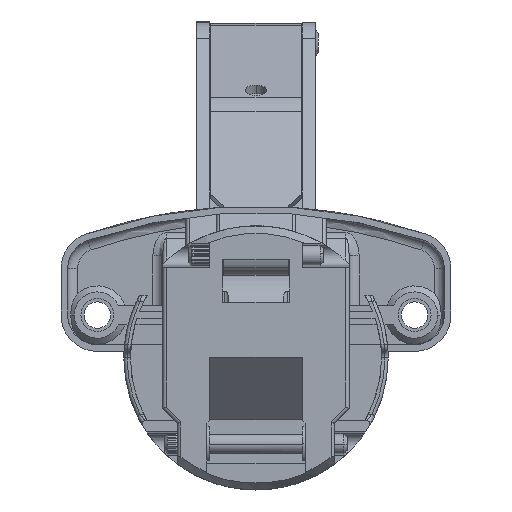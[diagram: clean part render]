
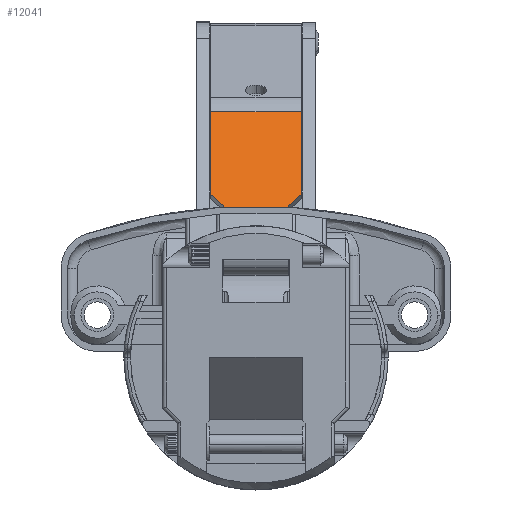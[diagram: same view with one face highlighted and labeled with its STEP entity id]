
A CAD part, top view. The second image highlights one B-rep face of the part: STEP entity #12041.
In plain terms, the highlighted planar face has unit normal (0, 0.467, 0.884) as drawn and (-0.417, 0.909, 0) by its records, which use the part's own axes.
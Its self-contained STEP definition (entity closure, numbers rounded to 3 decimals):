
#2488 = CARTESIAN_POINT ( 'NONE',  ( 8.4, -3.8, 13.7 ) ) ;
#2500 = PLANE ( 'NONE',  #4116 ) ;
#2503 = DIRECTION ( 'NONE',  ( 0.417, -0.909, 0. ) ) ;
#2505 = DIRECTION ( 'NONE',  ( 0.909, 0.417, 0. ) ) ;
#4116 = AXIS2_PLACEMENT_3D ( 'NONE', #2488, #2503, #2505 ) ;
#5132 = LINE ( 'NONE', #33053, #5141 ) ;
#5134 = LINE ( 'NONE', #32800, #5137 ) ;
#5136 = LINE ( 'NONE', #32790, #5139 ) ;
#5137 = VECTOR ( 'NONE', #32791, 1000. ) ;
#5138 = LINE ( 'NONE', #32914, #5145 ) ;
#5139 = VECTOR ( 'NONE', #32788, 1000. ) ;
#5140 = LINE ( 'NONE', #32786, #5143 ) ;
#5141 = VECTOR ( 'NONE', #32787, 1000. ) ;
#5142 = LINE ( 'NONE', #32789, #5147 ) ;
#5143 = VECTOR ( 'NONE', #32784, 1000. ) ;
#5145 = VECTOR ( 'NONE', #32783, 1000. ) ;
#5146 = LINE ( 'NONE', #32780, #5149 ) ;
#5147 = VECTOR ( 'NONE', #32781, 1000. ) ;
#5148 = LINE ( 'NONE', #32778, #5151 ) ;
#5149 = VECTOR ( 'NONE', #32779, 1000. ) ;
#5151 = VECTOR ( 'NONE', #32777, 1000. ) ;
#5702 = FACE_OUTER_BOUND ( 'NONE', #32856, .T. ) ;
#7741 = EDGE_CURVE ( 'NONE', #8924, #8927, #5134, .T. ) ;
#7742 = EDGE_CURVE ( 'NONE', #8924, #8933, #5136, .T. ) ;
#7743 = EDGE_CURVE ( 'NONE', #8933, #8934, #5132, .T. ) ;
#7744 = EDGE_CURVE ( 'NONE', #8928, #8934, #5140, .T. ) ;
#7745 = EDGE_CURVE ( 'NONE', #8930, #8928, #5138, .T. ) ;
#7746 = EDGE_CURVE ( 'NONE', #8930, #8937, #5142, .T. ) ;
#7747 = EDGE_CURVE ( 'NONE', #8937, #8938, #5146, .T. ) ;
#7748 = EDGE_CURVE ( 'NONE', #8938, #8927, #5148, .T. ) ;
#8924 = VERTEX_POINT ( 'NONE', #26335 ) ;
#8927 = VERTEX_POINT ( 'NONE', #26330 ) ;
#8928 = VERTEX_POINT ( 'NONE', #26325 ) ;
#8930 = VERTEX_POINT ( 'NONE', #26314 ) ;
#8933 = VERTEX_POINT ( 'NONE', #26316 ) ;
#8934 = VERTEX_POINT ( 'NONE', #26305 ) ;
#8937 = VERTEX_POINT ( 'NONE', #26310 ) ;
#8938 = VERTEX_POINT ( 'NONE', #26301 ) ;
#10351 = ORIENTED_EDGE ( 'NONE', *, *, #7741, .F. ) ;
#10352 = ORIENTED_EDGE ( 'NONE', *, *, #7742, .T. ) ;
#10353 = ORIENTED_EDGE ( 'NONE', *, *, #7743, .T. ) ;
#10354 = ORIENTED_EDGE ( 'NONE', *, *, #7744, .F. ) ;
#10355 = ORIENTED_EDGE ( 'NONE', *, *, #7745, .F. ) ;
#10356 = ORIENTED_EDGE ( 'NONE', *, *, #7746, .T. ) ;
#10357 = ORIENTED_EDGE ( 'NONE', *, *, #7747, .T. ) ;
#10358 = ORIENTED_EDGE ( 'NONE', *, *, #7748, .T. ) ;
#12041 = ADVANCED_FACE ( 'NONE', ( #5702 ), #2500, .F. ) ;
#26301 = CARTESIAN_POINT ( 'NONE',  ( 13.989, -1.235, 11.7 ) ) ;
#26305 = CARTESIAN_POINT ( 'NONE',  ( 15.807, -0.401, 0. ) ) ;
#26310 = CARTESIAN_POINT ( 'NONE',  ( 9.382, -3.349, 11.7 ) ) ;
#26314 = CARTESIAN_POINT ( 'NONE',  ( 9.382, -3.349, 2. ) ) ;
#26316 = CARTESIAN_POINT ( 'NONE',  ( 28.617, 5.478, 0. ) ) ;
#26325 = CARTESIAN_POINT ( 'NONE',  ( 13.989, -1.235, 2. ) ) ;
#26330 = CARTESIAN_POINT ( 'NONE',  ( 15.807, -0.401, 13.7 ) ) ;
#26335 = CARTESIAN_POINT ( 'NONE',  ( 28.617, 5.478, 13.7 ) ) ;
#32777 = DIRECTION ( 'NONE',  ( 0.643, 0.295, 0.707 ) ) ;
#32778 = CARTESIAN_POINT ( 'NONE',  ( 15.807, -0.401, 13.7 ) ) ;
#32779 = DIRECTION ( 'NONE',  ( 0.909, 0.417, 0. ) ) ;
#32780 = CARTESIAN_POINT ( 'NONE',  ( 13.989, -1.235, 11.7 ) ) ;
#32781 = DIRECTION ( 'NONE',  ( 0., 0., 1. ) ) ;
#32783 = DIRECTION ( 'NONE',  ( 0.909, 0.417, 0. ) ) ;
#32784 = DIRECTION ( 'NONE',  ( 0.643, 0.295, -0.707 ) ) ;
#32786 = CARTESIAN_POINT ( 'NONE',  ( 15.807, -0.401, 0. ) ) ;
#32787 = DIRECTION ( 'NONE',  ( -0.909, -0.417, 0. ) ) ;
#32788 = DIRECTION ( 'NONE',  ( 0., 0., -1. ) ) ;
#32789 = CARTESIAN_POINT ( 'NONE',  ( 9.382, -3.349, 11.7 ) ) ;
#32790 = CARTESIAN_POINT ( 'NONE',  ( 28.617, 5.478, 13.7 ) ) ;
#32791 = DIRECTION ( 'NONE',  ( -0.909, -0.417, 0. ) ) ;
#32800 = CARTESIAN_POINT ( 'NONE',  ( 8.4, -3.8, 13.7 ) ) ;
#32856 = EDGE_LOOP ( 'NONE', ( #10351, #10352, #10353, #10354, #10355, #10356, #10357, #10358 ) ) ;
#32914 = CARTESIAN_POINT ( 'NONE',  ( 13.989, -1.235, 2. ) ) ;
#33053 = CARTESIAN_POINT ( 'NONE',  ( 8.4, -3.8, 0. ) ) ;
